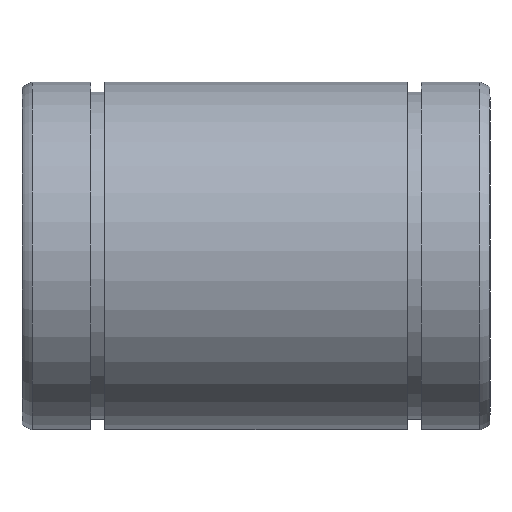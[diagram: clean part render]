
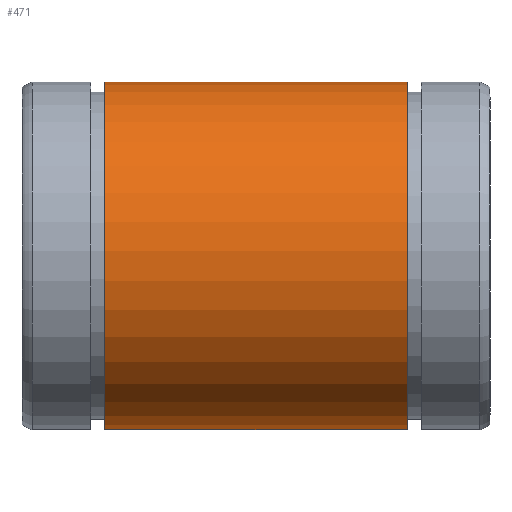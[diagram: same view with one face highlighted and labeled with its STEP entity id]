
A CAD part, front view. The second image highlights one B-rep face of the part: STEP entity #471.
In plain terms, the highlighted cylindrical face has radius 26 mm (diameter 52 mm), a partial arc.
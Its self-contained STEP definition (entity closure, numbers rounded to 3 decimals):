
#90=CARTESIAN_POINT('',(12.35,1.5,-25.957));
#91=VERTEX_POINT('',#90);
#98=CARTESIAN_POINT('',(57.65,1.5,-25.957));
#99=VERTEX_POINT('',#98);
#100=CARTESIAN_POINT('',(57.65,1.5,-25.957));
#101=DIRECTION('',(-1.0,0.0,0.0));
#102=VECTOR('',#101,45.3);
#103=LINE('',#100,#102);
#104=EDGE_CURVE('',#99,#91,#103,.T.);
#327=CARTESIAN_POINT('',(57.65,-1.5,-25.957));
#328=VERTEX_POINT('',#327);
#335=CARTESIAN_POINT('',(12.35,-1.5,-25.957));
#336=VERTEX_POINT('',#335);
#337=CARTESIAN_POINT('',(12.35,-1.5,-25.957));
#338=DIRECTION('',(1.0,0.0,0.0));
#339=VECTOR('',#338,45.3);
#340=LINE('',#337,#339);
#341=EDGE_CURVE('',#336,#328,#340,.T.);
#442=CARTESIAN_POINT('',(12.35,0.0,0.));
#443=DIRECTION('',(-1.0,0.0,0.0));
#444=DIRECTION('',(0.0,0.0,1.0));
#445=AXIS2_PLACEMENT_3D('',#442,#443,#444);
#446=CIRCLE('',#445,26.);
#447=EDGE_CURVE('',#336,#91,#446,.T.);
#454=CARTESIAN_POINT('',(35.,0.0,0.));
#455=DIRECTION('',(-1.0,0.0,0.0));
#456=DIRECTION('',(0.0,0.0,1.0));
#457=AXIS2_PLACEMENT_3D('',#454,#455,#456);
#458=CYLINDRICAL_SURFACE('',#457,26.);
#459=ORIENTED_EDGE('',*,*,#341,.T.);
#460=CARTESIAN_POINT('',(57.65,0.0,0.));
#461=DIRECTION('',(-1.0,0.0,0.0));
#462=DIRECTION('',(0.0,0.0,1.0));
#463=AXIS2_PLACEMENT_3D('',#460,#461,#462);
#464=CIRCLE('',#463,26.);
#465=EDGE_CURVE('',#328,#99,#464,.T.);
#466=ORIENTED_EDGE('',*,*,#465,.T.);
#467=ORIENTED_EDGE('',*,*,#104,.T.);
#468=ORIENTED_EDGE('',*,*,#447,.F.);
#469=EDGE_LOOP('',(#459,#466,#467,#468));
#470=FACE_OUTER_BOUND('',#469,.T.);
#471=ADVANCED_FACE('',(#470),#458,.T.);
